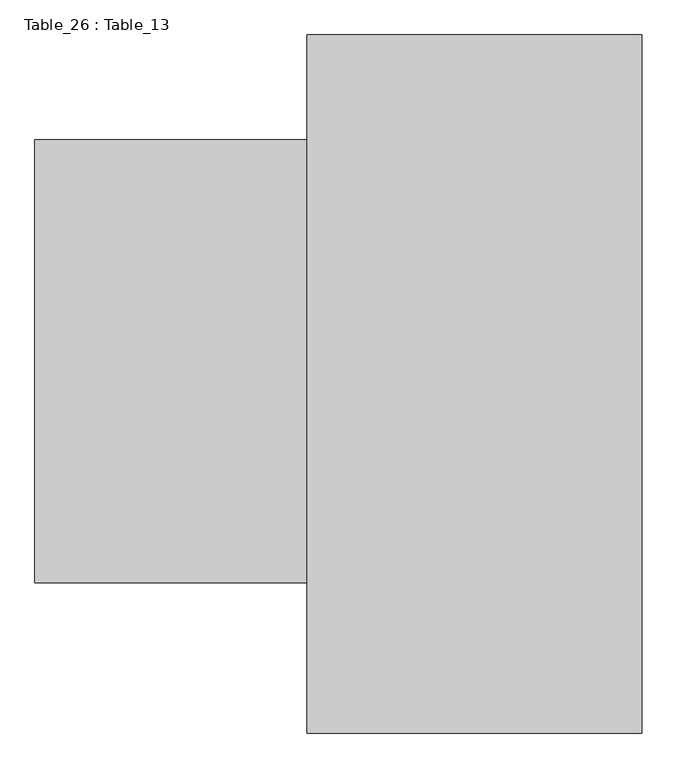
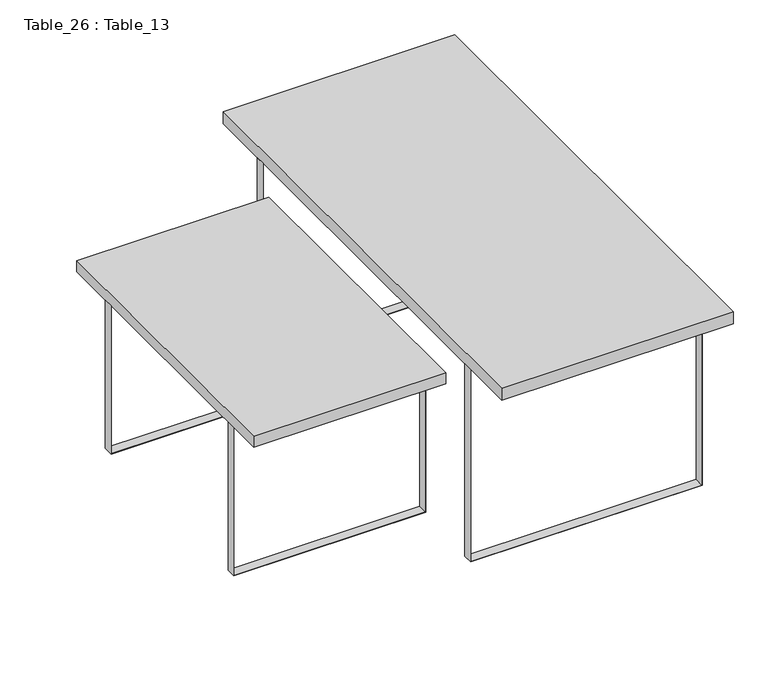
"""IFC4 building model written with IfcOpenShell, lengths in millimetres: furniture geometry, Table_26 : Table_13."""

from ifc_helpers import new_model, si_unit, frame, origin, place, context, project, spatial, polyline, outline, extrude, source, transform, mapped, element, save


def table_26_table_13_57efab66(model_context):
    return source(origin(), model_context, "Body", "SweptSolid", [
        extrude(outline(polyline([(3724.5672041, 2776.7283258), (3724.5672041, 2378.1819467), (3400.0, 2378.1819467), (3400.0, 2776.7283258), (3724.5672041, 2776.7283258)]), holes=[polyline([(3401.0, 2775.7283258), (3401.0, 2379.1819467), (3723.5672041, 2379.1819467), (3723.5672041, 2775.7283258), (3401.0, 2775.7283258)])]), frame((0.0, 14466.4333092, 0.0), z_axis=(0.0, 1.0, 0.0), x_axis=(0.0, 0.0, 1.0)), (0.0, 0.0, 1.0), 20.0),
        extrude(outline(polyline([(3724.5672041, 2776.7283258), (3724.5672041, 2378.1819467), (3400.0, 2378.1819467), (3400.0, 2776.7283258), (3724.5672041, 2776.7283258)]), holes=[polyline([(3401.0, 2775.7283258), (3401.0, 2379.1819467), (3723.5672041, 2379.1819467), (3723.5672041, 2775.7283258), (3401.0, 2775.7283258)])]), frame((0.0, 14906.4333092, 0.0), z_axis=(0.0, 1.0, 0.0), x_axis=(0.0, 0.0, 1.0)), (0.0, 0.0, 1.0), 20.0),
        extrude(outline(polyline([(3821.8001637, 3248.1819467), (3821.8001637, 2768.1819467), (3400.0, 2768.1819467), (3400.0, 3248.1819467), (3821.8001637, 3248.1819467)]), holes=[polyline([(3401.0, 3247.1819467), (3401.0, 2769.1819467), (3820.8001637, 2769.1819467), (3820.8001637, 3247.1819467), (3401.0, 3247.1819467)])]), frame((0.0, 14291.1289576, 0.0), z_axis=(0.0, 1.0, 0.0), x_axis=(0.0, 0.0, 1.0)), (0.0, 0.0, 1.0), 20.0),
        extrude(outline(polyline([(3821.8001637, 3248.1819467), (3821.8001637, 2768.1819467), (3400.0, 2768.1819467), (3400.0, 3248.1819467), (3821.8001637, 3248.1819467)]), holes=[polyline([(3401.0, 3247.1819467), (3401.0, 2769.1819467), (3820.8001637, 2769.1819467), (3820.8001637, 3247.1819467), (3401.0, 3247.1819467)])]), frame((0.0, 15036.1289576, 0.0), z_axis=(0.0, 1.0, 0.0), x_axis=(0.0, 0.0, 1.0)), (0.0, 0.0, 1.0), 20.0),
        extrude(outline(polyline([(2776.7283258, 15029.8275395), (2776.7283258, 14394.8275395), (2378.1819467, 14394.8275395), (2378.1819467, 15029.8275395), (2776.7283258, 15029.8275395)])), frame((0.0, 0.0, 3724.5672041), z_axis=(0.0, 0.0, 1.0), x_axis=(1.0, 0.0, 0.0)), (0.0, 0.0, 1.0), 24.381697),
        extrude(outline(polyline([(3248.1819467, 15179.8275395), (3248.1819467, 14179.8275395), (2768.1819467, 14179.8275395), (2768.1819467, 15179.8275395), (3248.1819467, 15179.8275395)])), frame((0.0, 0.0, 3821.8001637), z_axis=(0.0, 0.0, 1.0), x_axis=(1.0, 0.0, 0.0)), (0.0, 0.0, 1.0), 26.3893499),
    ])


if __name__ == "__main__":
    model = new_model("IFC4")
    model_context = context("Model", 3, world=origin())
    ifc_project = project(units=[si_unit("LENGTHUNIT", "METRE", prefix="MILLI")], contexts=[model_context])
    site = spatial("IfcSite", under=ifc_project)
    building = spatial("IfcBuilding", under=site)
    placement = place(None, origin())
    table_26_table_13_shape = table_26_table_13_57efab66(model_context)
    element("IfcFurniture", 1, ObjectType="Table_26 : Table_13", at=placement, inside=building, context=model_context, shape_type="MappedRepresentation", body=[
        mapped(table_26_table_13_shape, transform((0.0, 0.0, 0.0), x_axis=(1.0, 0.0, 0.0), y_axis=(0.0, 1.0, 0.0), z_axis=(0.0, 0.0, 1.0))),
    ])
    save(model, "model.ifc")
